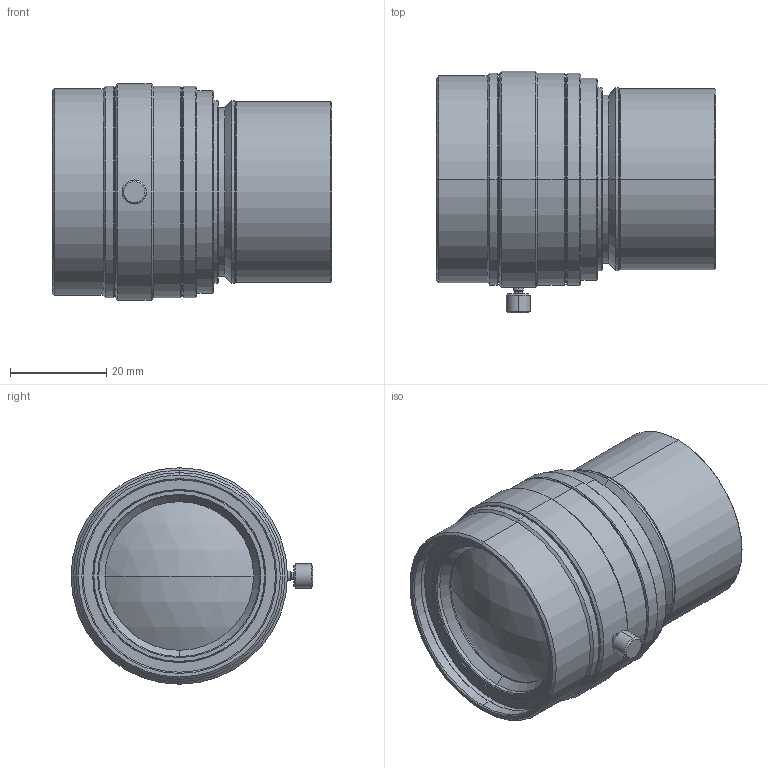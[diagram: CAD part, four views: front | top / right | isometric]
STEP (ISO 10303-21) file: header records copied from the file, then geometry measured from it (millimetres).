
FILE_DESCRIPTION (( 'STEP AP203' ), '1' );
FILE_NAME ('VS-L12056-05_V.STEP', '2016-05-23T01:46:25', ( 'miura_vst' ), ( '' ), 'SwSTEP 2.0', 'SolidWorks 2016', '' );
FILE_SCHEMA (( 'CONFIG_CONTROL_DESIGN' ));
Length unit declared in the file: millimetre
Products named in the file (1): VS-L12056-05_V
Bounding box: 58 x 50.3 x 45 mm (x, y, z)
Volume: 68493.8 mm3; surface area: 12721.7 mm2
Topology: 1 solids, 1 shells, 121 faces, 244 edges, 140 vertices
Faces by surface type: cone 64, cylinder 38, plane 15, sphere 4
Entity records: 3239 total; most frequent: DIRECTION 626, CARTESIAN_POINT 538, ORIENTED_EDGE 488, AXIS2_PLACEMENT_3D 262, EDGE_CURVE 244, CIRCLE 140, VERTEX_POINT 140, EDGE_LOOP 136
